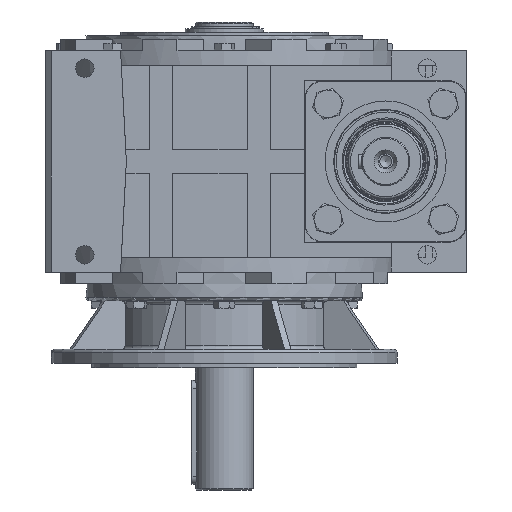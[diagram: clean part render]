
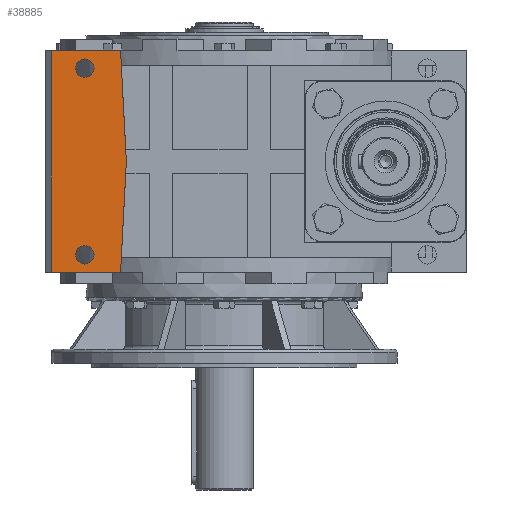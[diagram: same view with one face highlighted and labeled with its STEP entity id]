
A CAD part, left-side view. The second image highlights one B-rep face of the part: STEP entity #38885.
In plain terms, the highlighted planar face has unit normal (-1, 0, 0).
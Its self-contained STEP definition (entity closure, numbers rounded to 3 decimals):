
#483 = FACE_BOUND ( 'NONE', #30972, .T. ) ;
#2222 = CIRCLE ( 'NONE', #24149, 8. ) ;
#2257 = CARTESIAN_POINT ( 'NONE',  ( -152.5, 90., 96. ) ) ;
#2635 = DIRECTION ( 'NONE',  ( 0., 1., 0. ) ) ;
#3495 = EDGE_CURVE ( 'NONE', #31775, #9471, #10025, .T. ) ;
#4244 = CARTESIAN_POINT ( 'NONE',  ( -152.5, 90., -96. ) ) ;
#4405 = LINE ( 'NONE', #13035, #4605 ) ;
#4605 = VECTOR ( 'NONE', #31571, 1000. ) ;
#5297 = CIRCLE ( 'NONE', #12684, 8. ) ;
#5397 = DIRECTION ( 'NONE',  ( 0., 1., 0. ) ) ;
#6035 = DIRECTION ( 'NONE',  ( -1., 0., 0. ) ) ;
#7645 = EDGE_CURVE ( 'NONE', #23377, #23377, #2222, .T. ) ;
#7832 = VECTOR ( 'NONE', #19876, 1000. ) ;
#7868 = FACE_OUTER_BOUND ( 'NONE', #26721, .T. ) ;
#8324 = VERTEX_POINT ( 'NONE', #19495 ) ;
#8855 = LINE ( 'NONE', #4244, #7832 ) ;
#9011 = CARTESIAN_POINT ( 'NONE',  ( -152.5, 150., -96. ) ) ;
#9267 = CARTESIAN_POINT ( 'NONE',  ( -152.5, 150., -96. ) ) ;
#9471 = VERTEX_POINT ( 'NONE', #9267 ) ;
#9659 = VECTOR ( 'NONE', #30646, 1000. ) ;
#10025 = LINE ( 'NONE', #9011, #9659 ) ;
#11451 = DIRECTION ( 'NONE',  ( 1., 0., 0. ) ) ;
#12684 = AXIS2_PLACEMENT_3D ( 'NONE', #24763, #6035, #27850 ) ;
#13035 = CARTESIAN_POINT ( 'NONE',  ( -152.5, 90., -96. ) ) ;
#14456 = ORIENTED_EDGE ( 'NONE', *, *, #39380, .F. ) ;
#16439 = AXIS2_PLACEMENT_3D ( 'NONE', #32733, #11451, #33003 ) ;
#16555 = VERTEX_POINT ( 'NONE', #22589 ) ;
#16993 = DIRECTION ( 'NONE',  ( 0., -0.052, -0.999 ) ) ;
#17553 = ORIENTED_EDGE ( 'NONE', *, *, #31544, .F. ) ;
#19495 = CARTESIAN_POINT ( 'NONE',  ( -152.5, 84.969, 0. ) ) ;
#19876 = DIRECTION ( 'NONE',  ( 0., 1., 0. ) ) ;
#21406 = DIRECTION ( 'NONE',  ( -1., 0., 0. ) ) ;
#21530 = ORIENTED_EDGE ( 'NONE', *, *, #7645, .F. ) ;
#22221 = CARTESIAN_POINT ( 'NONE',  ( -152.5, 90., 96. ) ) ;
#22589 = CARTESIAN_POINT ( 'NONE',  ( -152.5, 129., 81. ) ) ;
#22628 = CARTESIAN_POINT ( 'NONE',  ( -152.5, 129., -81. ) ) ;
#22900 = ORIENTED_EDGE ( 'NONE', *, *, #33379, .T. ) ;
#23377 = VERTEX_POINT ( 'NONE', #22628 ) ;
#24149 = AXIS2_PLACEMENT_3D ( 'NONE', #39522, #21406, #2635 ) ;
#24763 = CARTESIAN_POINT ( 'NONE',  ( -152.5, 121., 81. ) ) ;
#25683 = VERTEX_POINT ( 'NONE', #39705 ) ;
#25987 = VECTOR ( 'NONE', #5397, 1000. ) ;
#26042 = LINE ( 'NONE', #2257, #25987 ) ;
#26721 = EDGE_LOOP ( 'NONE', ( #22900, #39886, #14456, #36250, #17553 ) ) ;
#27053 = EDGE_LOOP ( 'NONE', ( #21530 ) ) ;
#27850 = DIRECTION ( 'NONE',  ( 0., 1., 0. ) ) ;
#30646 = DIRECTION ( 'NONE',  ( 0., 0., -1. ) ) ;
#30972 = EDGE_LOOP ( 'NONE', ( #38530 ) ) ;
#31544 = EDGE_CURVE ( 'NONE', #38579, #8324, #35342, .T. ) ;
#31571 = DIRECTION ( 'NONE',  ( 0., 0.052, -0.999 ) ) ;
#31775 = VERTEX_POINT ( 'NONE', #36316 ) ;
#32541 = FACE_BOUND ( 'NONE', #27053, .T. ) ;
#32733 = CARTESIAN_POINT ( 'NONE',  ( -152.5, 90., -96. ) ) ;
#33003 = DIRECTION ( 'NONE',  ( 0., -1., 0. ) ) ;
#33379 = EDGE_CURVE ( 'NONE', #38579, #31775, #26042, .T. ) ;
#35321 = VECTOR ( 'NONE', #16993, 1000. ) ;
#35342 = LINE ( 'NONE', #38265, #35321 ) ;
#36250 = ORIENTED_EDGE ( 'NONE', *, *, #37451, .F. ) ;
#36316 = CARTESIAN_POINT ( 'NONE',  ( -152.5, 150., 96. ) ) ;
#37315 = EDGE_CURVE ( 'NONE', #16555, #16555, #5297, .T. ) ;
#37451 = EDGE_CURVE ( 'NONE', #8324, #25683, #4405, .T. ) ;
#38265 = CARTESIAN_POINT ( 'NONE',  ( -152.5, 84.969, 0. ) ) ;
#38530 = ORIENTED_EDGE ( 'NONE', *, *, #37315, .F. ) ;
#38579 = VERTEX_POINT ( 'NONE', #22221 ) ;
#38729 = PLANE ( 'NONE',  #16439 ) ;
#38885 = ADVANCED_FACE ( 'NONE', ( #32541, #483, #7868 ), #38729, .F. ) ;
#39380 = EDGE_CURVE ( 'NONE', #25683, #9471, #8855, .T. ) ;
#39522 = CARTESIAN_POINT ( 'NONE',  ( -152.5, 121., -81. ) ) ;
#39705 = CARTESIAN_POINT ( 'NONE',  ( -152.5, 90., -96. ) ) ;
#39886 = ORIENTED_EDGE ( 'NONE', *, *, #3495, .T. ) ;
